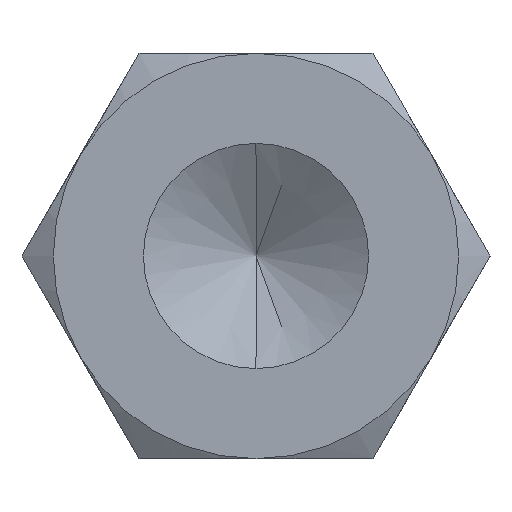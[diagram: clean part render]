
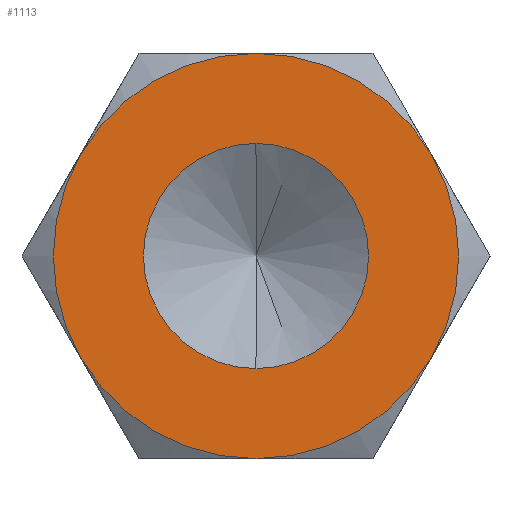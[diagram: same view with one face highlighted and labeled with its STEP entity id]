
A CAD part, left-side view. The second image highlights one B-rep face of the part: STEP entity #1113.
In plain terms, the highlighted planar face has unit normal (-1, 0, 0).
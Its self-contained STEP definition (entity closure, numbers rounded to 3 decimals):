
#43 = EDGE_CURVE ( 'NONE', #942, #1965, #1617, .T. ) ;
#53 = CARTESIAN_POINT ( 'NONE',  ( -17.85, 0., 0. ) ) ;
#66 = AXIS2_PLACEMENT_3D ( 'NONE', #1486, #526, #719 ) ;
#136 = CARTESIAN_POINT ( 'NONE',  ( -17.85, 0., 0. ) ) ;
#164 = AXIS2_PLACEMENT_3D ( 'NONE', #812, #612, #1349 ) ;
#184 = PLANE ( 'NONE',  #947 ) ;
#241 = DIRECTION ( 'NONE',  ( 0., 0., -1. ) ) ;
#287 = VERTEX_POINT ( 'NONE', #2337 ) ;
#302 = EDGE_CURVE ( 'NONE', #485, #2106, #1849, .T. ) ;
#350 = EDGE_CURVE ( 'NONE', #1965, #942, #1925, .T. ) ;
#372 = CARTESIAN_POINT ( 'NONE',  ( -17.85, 2.598, 0. ) ) ;
#427 = DIRECTION ( 'NONE',  ( 1., 0., 0. ) ) ;
#463 = ORIENTED_EDGE ( 'NONE', *, *, #783, .F. ) ;
#480 = CARTESIAN_POINT ( 'NONE',  ( -17.85, 0., 1.25 ) ) ;
#485 = VERTEX_POINT ( 'NONE', #1432 ) ;
#504 = CARTESIAN_POINT ( 'NONE',  ( -17.85, 0., -1.25 ) ) ;
#514 = DIRECTION ( 'NONE',  ( 0., 0., -1. ) ) ;
#526 = DIRECTION ( 'NONE',  ( -1., 0., 0. ) ) ;
#612 = DIRECTION ( 'NONE',  ( -1., 0., 0. ) ) ;
#615 = EDGE_CURVE ( 'NONE', #2106, #2247, #853, .T. ) ;
#644 = ORIENTED_EDGE ( 'NONE', *, *, #350, .F. ) ;
#695 = DIRECTION ( 'NONE',  ( 0., 0., 1. ) ) ;
#719 = DIRECTION ( 'NONE',  ( 0., 0., 1. ) ) ;
#741 = DIRECTION ( 'NONE',  ( 0., 0., -1. ) ) ;
#745 = ORIENTED_EDGE ( 'NONE', *, *, #302, .F. ) ;
#783 = EDGE_CURVE ( 'NONE', #287, #485, #1605, .T. ) ;
#803 = AXIS2_PLACEMENT_3D ( 'NONE', #966, #1717, #2055 ) ;
#812 = CARTESIAN_POINT ( 'NONE',  ( -17.85, 0., 0. ) ) ;
#814 = CARTESIAN_POINT ( 'NONE',  ( -17.85, 0., 0. ) ) ;
#853 = CIRCLE ( 'NONE', #803, 2.25 ) ;
#942 = VERTEX_POINT ( 'NONE', #480 ) ;
#947 = AXIS2_PLACEMENT_3D ( 'NONE', #372, #1873, #741 ) ;
#966 = CARTESIAN_POINT ( 'NONE',  ( -17.85, 0., 0. ) ) ;
#1028 = CIRCLE ( 'NONE', #66, 2.25 ) ;
#1044 = ORIENTED_EDGE ( 'NONE', *, *, #2304, .T. ) ;
#1062 = CIRCLE ( 'NONE', #1316, 2.25 ) ;
#1080 = DIRECTION ( 'NONE',  ( -1., 0., 0. ) ) ;
#1113 = ADVANCED_FACE ( 'NONE', ( #1211, #1968 ), #184, .F. ) ;
#1133 = AXIS2_PLACEMENT_3D ( 'NONE', #814, #1921, #1542 ) ;
#1145 = EDGE_CURVE ( 'NONE', #2013, #287, #1062, .T. ) ;
#1183 = EDGE_CURVE ( 'NONE', #2247, #2058, #1358, .T. ) ;
#1211 = FACE_BOUND ( 'NONE', #2241, .T. ) ;
#1295 = CARTESIAN_POINT ( 'NONE',  ( -17.85, 1.949, 1.125 ) ) ;
#1316 = AXIS2_PLACEMENT_3D ( 'NONE', #53, #427, #241 ) ;
#1344 = CARTESIAN_POINT ( 'NONE',  ( -17.85, 0., -2.25 ) ) ;
#1349 = DIRECTION ( 'NONE',  ( 0., 0., 1. ) ) ;
#1358 = CIRCLE ( 'NONE', #1133, 2.25 ) ;
#1426 = AXIS2_PLACEMENT_3D ( 'NONE', #1803, #1080, #695 ) ;
#1432 = CARTESIAN_POINT ( 'NONE',  ( -17.85, -1.949, -1.125 ) ) ;
#1486 = CARTESIAN_POINT ( 'NONE',  ( -17.85, 0., 0. ) ) ;
#1542 = DIRECTION ( 'NONE',  ( 0., 0., -1. ) ) ;
#1605 = CIRCLE ( 'NONE', #2342, 2.25 ) ;
#1617 = CIRCLE ( 'NONE', #164, 1.25 ) ;
#1647 = ORIENTED_EDGE ( 'NONE', *, *, #615, .F. ) ;
#1658 = CARTESIAN_POINT ( 'NONE',  ( -17.85, 0., 2.25 ) ) ;
#1717 = DIRECTION ( 'NONE',  ( 1., 0., 0. ) ) ;
#1798 = CARTESIAN_POINT ( 'NONE',  ( -17.85, 1.949, -1.125 ) ) ;
#1803 = CARTESIAN_POINT ( 'NONE',  ( -17.85, 0., 0. ) ) ;
#1849 = CIRCLE ( 'NONE', #2424, 2.25 ) ;
#1850 = ORIENTED_EDGE ( 'NONE', *, *, #1145, .F. ) ;
#1873 = DIRECTION ( 'NONE',  ( 1., 0., 0. ) ) ;
#1918 = ORIENTED_EDGE ( 'NONE', *, *, #1183, .F. ) ;
#1921 = DIRECTION ( 'NONE',  ( 1., 0., 0. ) ) ;
#1925 = CIRCLE ( 'NONE', #1426, 1.25 ) ;
#1965 = VERTEX_POINT ( 'NONE', #504 ) ;
#1968 = FACE_OUTER_BOUND ( 'NONE', #2329, .T. ) ;
#1980 = ORIENTED_EDGE ( 'NONE', *, *, #43, .F. ) ;
#2013 = VERTEX_POINT ( 'NONE', #1658 ) ;
#2055 = DIRECTION ( 'NONE',  ( 0., 0., -1. ) ) ;
#2058 = VERTEX_POINT ( 'NONE', #1295 ) ;
#2106 = VERTEX_POINT ( 'NONE', #1344 ) ;
#2133 = DIRECTION ( 'NONE',  ( 0., 0., -1. ) ) ;
#2195 = DIRECTION ( 'NONE',  ( 1., 0., 0. ) ) ;
#2241 = EDGE_LOOP ( 'NONE', ( #1980, #644 ) ) ;
#2247 = VERTEX_POINT ( 'NONE', #1798 ) ;
#2288 = DIRECTION ( 'NONE',  ( 1., 0., 0. ) ) ;
#2304 = EDGE_CURVE ( 'NONE', #2013, #2058, #1028, .T. ) ;
#2306 = CARTESIAN_POINT ( 'NONE',  ( -17.85, 0., 0. ) ) ;
#2329 = EDGE_LOOP ( 'NONE', ( #1647, #745, #463, #1850, #1044, #1918 ) ) ;
#2337 = CARTESIAN_POINT ( 'NONE',  ( -17.85, -1.949, 1.125 ) ) ;
#2342 = AXIS2_PLACEMENT_3D ( 'NONE', #2306, #2288, #2133 ) ;
#2424 = AXIS2_PLACEMENT_3D ( 'NONE', #136, #2195, #514 ) ;
